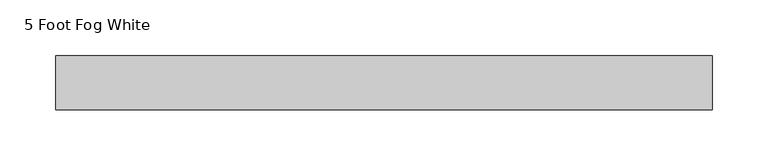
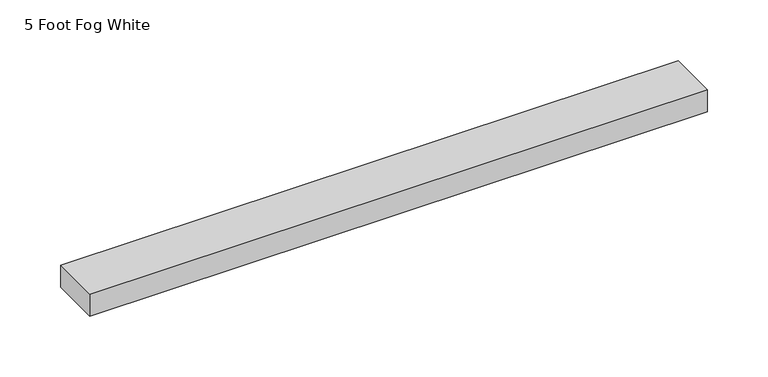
"""IFC4 building model written with IfcOpenShell, lengths in millimetres: proxy geometry, Raceway-2400_Series-Wiremold-Steel : 5 Foot Fog White."""

from ifc_helpers import new_model, si_unit, origin, origin_with_axes, place, context, project, spatial, polyline, outline, extrude, source, transform, mapped, element, save


def proxy_5_foot_fog_white_e906f57e(model_context):
    return source(origin(), model_context, "Body", "SweptSolid", [
        extrude(outline(polyline([(588.4876648, 24.2062), (588.4876648, -24.2062), (0.0, -24.2062), (0.0, 24.2062), (588.4876648, 24.2062)])), origin_with_axes(), (0.0, 0.0, 1.0), 22.225),
    ])


if __name__ == "__main__":
    model = new_model("IFC4")
    model_context = context("Model", 3, world=origin())
    ifc_project = project(units=[si_unit("LENGTHUNIT", "METRE", prefix="MILLI")], contexts=[model_context])
    site = spatial("IfcSite", under=ifc_project)
    building = spatial("IfcBuilding", under=site)
    placement = place(None, origin())
    proxy_5_foot_fog_white_shape = proxy_5_foot_fog_white_e906f57e(model_context)
    element("IfcBuildingElementProxy", 1, Name="Raceway-2400_Series-Wiremold-Steel : 5 Foot Fog White", ObjectType="Raceway-2400_Series-Wiremold-Steel : 5 Foot Fog White", at=placement, inside=building, context=model_context, shape_type="MappedRepresentation", body=[
        mapped(proxy_5_foot_fog_white_shape, transform((0.0, 0.0, 0.0), x_axis=(1.0, 0.0, 0.0), y_axis=(0.0, 1.0, 0.0), z_axis=(0.0, 0.0, 1.0))),
    ])
    save(model, "model.ifc")
